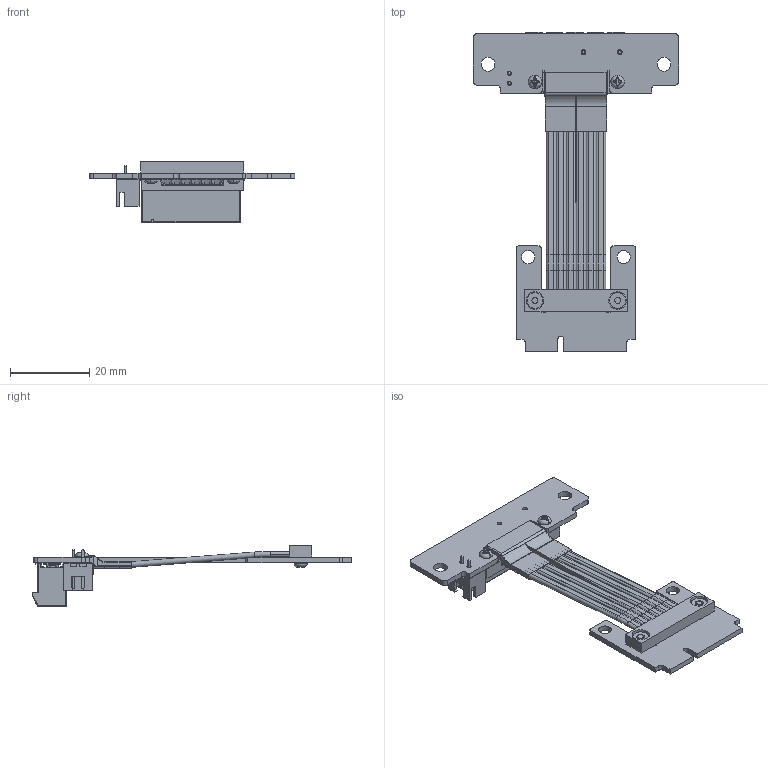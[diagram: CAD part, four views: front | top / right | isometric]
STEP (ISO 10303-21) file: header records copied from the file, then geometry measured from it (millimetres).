
FILE_DESCRIPTION(('Open CASCADE Model'),'2;1');
FILE_NAME('Open CASCADE Shape Model','2022-12-28T14:42:04',('Author'),( 'Open CASCADE'),'Open CASCADE STEP processor 7.5','Open CASCADE 7.5' ,'Unknown');
FILE_SCHEMA(('AUTOMOTIVE_DESIGN { 1 0 10303 214 1 1 1 1 }'));
Length unit declared in the file: millimetre
Products named in the file (96): PCB; Board; Open CASCADE STEP translator 7.5 13.1.1; Designator4; R1L LOTES 4.0.3D; Designator67; JST 2pin; Free-Models; s shape Cable20210812(2); R1S 4.0 PAD + M4; Free-Models.step; R1SPAD4-82.step; G0033_RGB9411503.step; Hexagon_nut_ISO_4032_(DIN_934)_-_M2_RGB9411503.step; R11SL-TL 4.0   Heat shrink tube_RGB3947580; Hexagon nut ISO 4032 (DIN 934) - M2_RGB9411503; G0033_RGB9411503; Tape14x5_RGB0
Assembly tree (101 placements, depth 5):
  PCB
    Board
      Open CASCADE STEP translator 7.5 13.1.1
    Designator4
      R1L LOTES 4.0.3D
    Designator67
      JST 2pin
    Free-Models
      s shape Cable20210812(2)
      s shape Cable20210812(2)
      s shape Cable20210812(2)
      s shape Cable20210812(2)
      s shape Cable20210812(2)
      s shape Cable20210812(2)
      s shape Cable20210812(2)
      s shape Cable20210812(2)
      s shape Cable20210812(2)
      s shape Cable20210812(2)
      s shape Cable20210812(2)
      s shape Cable20210812(2)
      s shape Cable20210812(2)
      s shape Cable20210812(2)
      s shape Cable20210812(2)
      s shape Cable20210812(2)
      s shape Cable20210812(2)
      s shape Cable20210812(2)
      s shape Cable20210812(2)
      s shape Cable20210812(2)
      s shape Cable20210812(2)
      s shape Cable20210812(2)
      s shape Cable20210812(2)
      s shape Cable20210812(2)
      s shape Cable20210812(2)
      s shape Cable20210812(2)
      s shape Cable20210812(2)
      s shape Cable20210812(2)
      s shape Cable20210812(2)
      s shape Cable20210812(2)
      s shape Cable20210812(2)
      s shape Cable20210812(2)
      s shape Cable20210812(2)
      s shape Cable20210812(2)
      s shape Cable20210812(2)
      s shape Cable20210812(2)
      s shape Cable20210812(2)
      s shape Cable20210812(2)
      s shape Cable20210812(2)
      s shape Cable20210812(2)
      s shape Cable20210812(2)
      s shape Cable20210812(2)
      s shape Cable20210812(2)
      s shape Cable20210812(2)
      s shape Cable20210812(2)
      s shape Cable20210812(2)
      s shape Cable20210812(2)
      s shape Cable20210812(2)
      s shape Cable20210812(2)
      s shape Cable20210812(2)
      s shape Cable20210812(2)
      s shape Cable20210812(2)
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Bounding box: 52.01 x 80.91 x 15.54 mm (x, y, z)
Volume: 5157.8 mm3; surface area: 18286.4 mm2
Topology: 99 solids, 137 shells, 4335 faces, 11222 edges, 7220 vertices
Faces by surface type: plane 2454, cylinder 1402, torus 356, cone 78, bspline 37, sphere 4, revolution 4
Full cylindrical faces by diameter (mm): 0.55 x24, 0.58 x24, 1.05 x2, 1.2 x2, 2.2 x4, 3.3 x2, 3.5 x2
Entity records: 145270 total; most frequent: CARTESIAN_POINT 24455, DIRECTION 22247, ORIENTED_EDGE 21440, EDGE_CURVE 10720, AXIS2_PLACEMENT_3D 7577, LINE 7091, VECTOR 7091, VERTEX_POINT 6904
